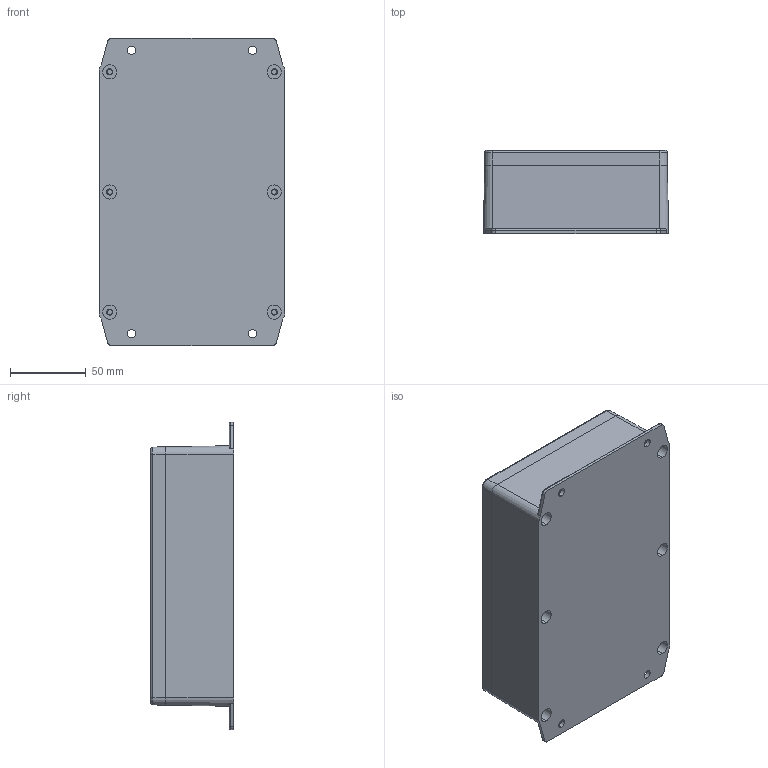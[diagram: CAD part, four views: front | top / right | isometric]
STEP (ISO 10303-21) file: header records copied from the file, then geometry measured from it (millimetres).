
FILE_DESCRIPTION (( 'STEP AP214' ), '1' );
FILE_NAME ('AN-06F-01.step', '2017-09-07T14:25:59', ( '' ), ( '' ), 'SwSTEP 2.0', 'SolidWorks 2016', '' );
FILE_SCHEMA (( 'AUTOMOTIVE_DESIGN' ));
Length unit declared in the file: inch
Products named in the file (6): AN-06C_AN-06C-01; SCREWS-034-6; cross recessed countersunk head screw_jis_JIS 1111 Cross recessed countersunk head screw - M4 x 20 - Z --20CSST; AN-06B_AN-06BF-01; GASKET-106-01; AN-06F-01
Assembly tree (10 placements, depth 3):
  AN-06F-01
    AN-06B_AN-06BF-01
    AN-06C_AN-06C-01
    SCREWS-034-6
      cross recessed countersunk head screw_jis_JIS 1111 Cross recessed countersunk head screw - M4 x 20 - Z --20CSST  x6
    GASKET-106-01
Bounding box: 122.57 x 55.15 x 203.5 mm (x, y, z)
Volume: 255520.6 mm3; surface area: 168072.3 mm2
Topology: 9 solids, 9 shells, 803 faces, 1976 edges, 1192 vertices
Faces by surface type: plane 251, cylinder 242, torus 144, cone 142, bspline 16, sphere 8
Entity records: 20237 total; most frequent: CARTESIAN_POINT 4048, DIRECTION 3628, ORIENTED_EDGE 3172, EDGE_CURVE 1586, AXIS2_PLACEMENT_3D 1477, VERTEX_POINT 967, CIRCLE 836, EDGE_LOOP 693
